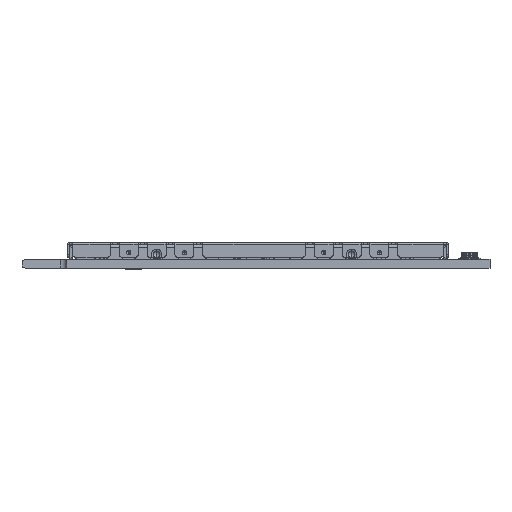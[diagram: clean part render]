
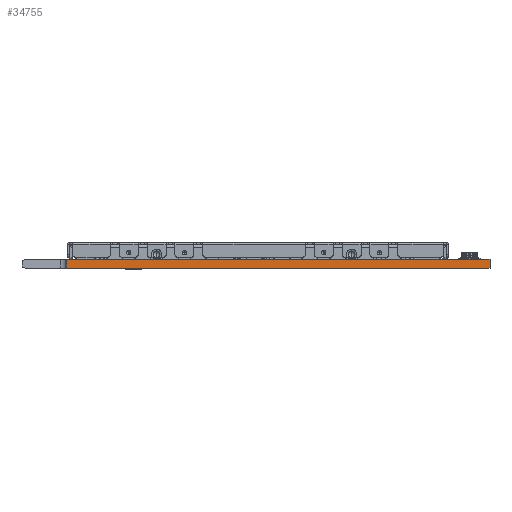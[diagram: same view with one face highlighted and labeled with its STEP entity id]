
A CAD part, left-side view. The second image highlights one B-rep face of the part: STEP entity #34755.
In plain terms, the highlighted planar face has unit normal (-1, 0, 0).
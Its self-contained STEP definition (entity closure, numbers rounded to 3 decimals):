
#59=DIRECTION('',(0.,-1.,0.));
#60=VECTOR('',#59,38.);
#61=CARTESIAN_POINT('',(-15.,16.45,0.));
#62=LINE('',#61,#60);
#6952=DIRECTION('',(0.,-1.,0.));
#6953=VECTOR('',#6952,38.);
#6954=CARTESIAN_POINT('',(-15.,16.45,0.8));
#6955=LINE('',#6954,#6953);
#15424=DIRECTION('',(0.,0.,1.));
#15425=VECTOR('',#15424,0.8);
#15426=CARTESIAN_POINT('',(-15.,16.45,0.));
#15427=LINE('',#15426,#15425);
#15445=DIRECTION('',(0.,0.,1.));
#15446=VECTOR('',#15445,0.8);
#15447=CARTESIAN_POINT('',(-15.,-21.55,0.));
#15448=LINE('',#15447,#15446);
#17355=CARTESIAN_POINT('',(-15.,16.45,0.));
#17356=VERTEX_POINT('',#17355);
#17357=CARTESIAN_POINT('',(-15.,-21.55,0.));
#17358=VERTEX_POINT('',#17357);
#17375=CARTESIAN_POINT('',(-15.,16.45,0.8));
#17376=VERTEX_POINT('',#17375);
#17377=CARTESIAN_POINT('',(-15.,-21.55,0.8));
#17378=VERTEX_POINT('',#17377);
#34743=CARTESIAN_POINT('',(-15.,16.45,0.));
#34744=DIRECTION('',(-1.,0.,0.));
#34745=DIRECTION('',(0.,-1.,0.));
#34746=AXIS2_PLACEMENT_3D('',#34743,#34744,#34745);
#34747=PLANE('',#34746);
#34748=ORIENTED_EDGE('',*,*,#20564,.F.);
#34749=ORIENTED_EDGE('',*,*,#34738,.T.);
#34750=ORIENTED_EDGE('',*,*,#24439,.T.);
#34752=ORIENTED_EDGE('',*,*,#34751,.F.);
#34753=EDGE_LOOP('',(#34748,#34749,#34750,#34752));
#34754=FACE_OUTER_BOUND('',#34753,.F.);
#20564=EDGE_CURVE('',#17356,#17358,#62,.T.);
#24439=EDGE_CURVE('',#17376,#17378,#6955,.T.);
#34738=EDGE_CURVE('',#17356,#17376,#15427,.T.);
#34751=EDGE_CURVE('',#17358,#17378,#15448,.T.);
#34755=ADVANCED_FACE('',(#34754),#34747,.T.);
